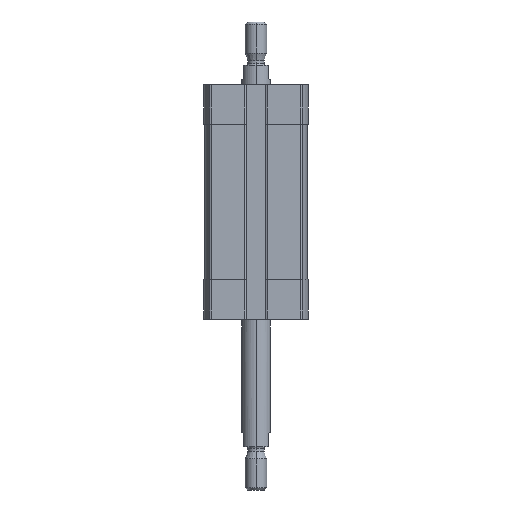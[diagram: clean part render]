
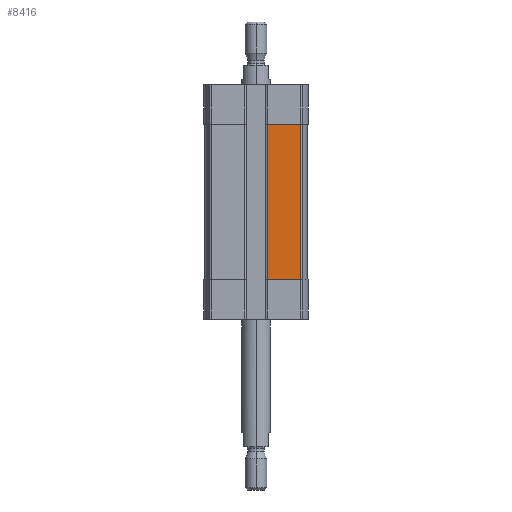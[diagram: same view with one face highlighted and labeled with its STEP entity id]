
A CAD part, left-side view. The second image highlights one B-rep face of the part: STEP entity #8416.
In plain terms, the highlighted planar face has unit normal (-1, 0, 0).
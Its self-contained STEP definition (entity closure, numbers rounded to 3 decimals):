
#31 = FACE_OUTER_BOUND ( 'NONE', #428, .T. ) ;
#248 = VERTEX_POINT ( 'NONE', #9897 ) ;
#309 = ORIENTED_EDGE ( 'NONE', *, *, #11770, .T. ) ;
#428 = EDGE_LOOP ( 'NONE', ( #10320, #8279, #309, #8134 ) ) ;
#593 = CARTESIAN_POINT ( 'NONE',  ( -14.25, -3.1, -54. ) ) ;
#850 = CARTESIAN_POINT ( 'NONE',  ( -14.25, -3.1, -54. ) ) ;
#942 = VERTEX_POINT ( 'NONE', #11114 ) ;
#1045 = DIRECTION ( 'NONE',  ( -1., 0., 0. ) ) ;
#1230 = VECTOR ( 'NONE', #1555, 1000. ) ;
#1318 = DIRECTION ( 'NONE',  ( 0., -1., 0. ) ) ;
#1534 = LINE ( 'NONE', #5183, #5417 ) ;
#1555 = DIRECTION ( 'NONE',  ( 0., -1., 0. ) ) ;
#2189 = DIRECTION ( 'NONE',  ( 0., 0., 1. ) ) ;
#3087 = CARTESIAN_POINT ( 'NONE',  ( -14.25, -3.1, -11. ) ) ;
#5183 = CARTESIAN_POINT ( 'NONE',  ( -14.25, -12.347, -54. ) ) ;
#5417 = VECTOR ( 'NONE', #2189, 1000. ) ;
#5702 = DIRECTION ( 'NONE',  ( 0., 0., 1. ) ) ;
#5860 = EDGE_CURVE ( 'NONE', #10515, #942, #11521, .T. ) ;
#6163 = LINE ( 'NONE', #850, #11810 ) ;
#6220 = VERTEX_POINT ( 'NONE', #593 ) ;
#8010 = DIRECTION ( 'NONE',  ( 0., 0., 1. ) ) ;
#8134 = ORIENTED_EDGE ( 'NONE', *, *, #9412, .T. ) ;
#8279 = ORIENTED_EDGE ( 'NONE', *, *, #11592, .F. ) ;
#8384 = CARTESIAN_POINT ( 'NONE',  ( -14.25, -3.1, -54. ) ) ;
#8416 = ADVANCED_FACE ( 'NONE', ( #31 ), #9333, .T. ) ;
#8614 = AXIS2_PLACEMENT_3D ( 'NONE', #8384, #1045, #5702 ) ;
#9333 = PLANE ( 'NONE',  #8614 ) ;
#9412 = EDGE_CURVE ( 'NONE', #248, #942, #1534, .T. ) ;
#9482 = CARTESIAN_POINT ( 'NONE',  ( -14.25, -3.1, -54. ) ) ;
#9722 = CARTESIAN_POINT ( 'NONE',  ( -14.25, -3.1, -11. ) ) ;
#9897 = CARTESIAN_POINT ( 'NONE',  ( -14.25, -12.347, -54. ) ) ;
#10286 = VECTOR ( 'NONE', #1318, 1000. ) ;
#10320 = ORIENTED_EDGE ( 'NONE', *, *, #5860, .F. ) ;
#10432 = LINE ( 'NONE', #9482, #10286 ) ;
#10515 = VERTEX_POINT ( 'NONE', #3087 ) ;
#11114 = CARTESIAN_POINT ( 'NONE',  ( -14.25, -12.347, -11. ) ) ;
#11521 = LINE ( 'NONE', #9722, #1230 ) ;
#11592 = EDGE_CURVE ( 'NONE', #6220, #10515, #6163, .T. ) ;
#11770 = EDGE_CURVE ( 'NONE', #6220, #248, #10432, .T. ) ;
#11810 = VECTOR ( 'NONE', #8010, 1000. ) ;
